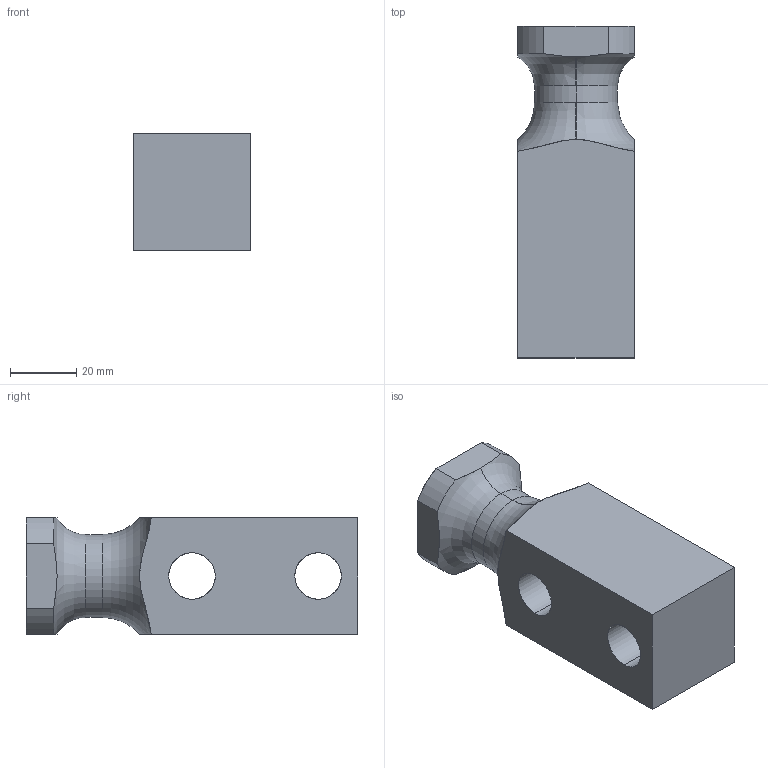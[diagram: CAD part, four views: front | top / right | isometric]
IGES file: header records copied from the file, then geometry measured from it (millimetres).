
Start section: START RECORD GO HERE.
Global section: file name: 395V-04-035-100.igs; native system: DASSAULT SYSTEMES CATIA V5 R20 - www.3ds.com; preprocessor: CATIA Version 5 Release 20 ; author: Utente; organization: NB04-ASUS; date: 20200410.132246; units: millimetre
Bounding box: 35 x 100 x 35 mm (x, y, z)
Surface area: 18304.2 mm2 (no closed solid volume)
Topology: 0 solids, 0 shells, 30 faces, 164 edges, 164 vertices
Faces by surface type: revolution 18, extrusion 12
